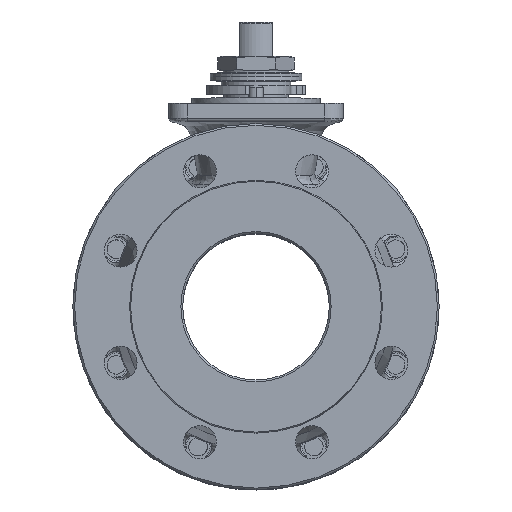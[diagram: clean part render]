
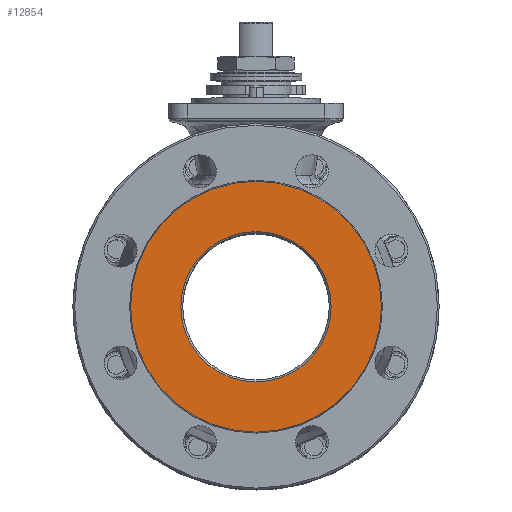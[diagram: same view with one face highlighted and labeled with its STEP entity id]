
A CAD part, top view. The second image highlights one B-rep face of the part: STEP entity #12854.
In plain terms, the highlighted planar face has unit normal (0, 0, 1) as drawn and (0, -1, 0) by its records, which use the part's own axes.
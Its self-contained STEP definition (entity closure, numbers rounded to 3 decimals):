
#349 = DIRECTION ( 'NONE',  ( 0., 0., 1. ) ) ;
#2985 = VERTEX_POINT ( 'NONE', #32987 ) ;
#4838 = EDGE_LOOP ( 'NONE', ( #9394, #28492 ) ) ;
#5054 = DIRECTION ( 'NONE',  ( 0., 1., 0. ) ) ;
#5083 = AXIS2_PLACEMENT_3D ( 'NONE', #13541, #7719, #27626 ) ;
#6024 = AXIS2_PLACEMENT_3D ( 'NONE', #31054, #5054, #10640 ) ;
#6069 = EDGE_CURVE ( 'NONE', #2985, #8365, #33470, .T. ) ;
#7719 = DIRECTION ( 'NONE',  ( 0., 1., 0. ) ) ;
#8365 = VERTEX_POINT ( 'NONE', #9463 ) ;
#9394 = ORIENTED_EDGE ( 'NONE', *, *, #6069, .F. ) ;
#9463 = CARTESIAN_POINT ( 'NONE',  ( 0., -64.75, -75.464 ) ) ;
#9490 = DIRECTION ( 'NONE',  ( 0., -1., 0. ) ) ;
#10086 = FACE_OUTER_BOUND ( 'NONE', #4838, .T. ) ;
#10613 = CARTESIAN_POINT ( 'NONE',  ( 0., -64.75, -7. ) ) ;
#10640 = DIRECTION ( 'NONE',  ( 0., 0., 1. ) ) ;
#11181 = CARTESIAN_POINT ( 'NONE',  ( 0., -64.75, -7. ) ) ;
#12329 = DIRECTION ( 'NONE',  ( 0., 0., -1. ) ) ;
#12854 = ADVANCED_FACE ( 'NONE', ( #36412, #10086 ), #17907, .T. ) ;
#13541 = CARTESIAN_POINT ( 'NONE',  ( 0., -64.75, -7. ) ) ;
#14604 = AXIS2_PLACEMENT_3D ( 'NONE', #18282, #9490, #12329 ) ;
#17907 = PLANE ( 'NONE',  #14604 ) ;
#18282 = CARTESIAN_POINT ( 'NONE',  ( 0., -64.75, -41.232 ) ) ;
#20275 = CIRCLE ( 'NONE', #6024, 68.464 ) ;
#22412 = CARTESIAN_POINT ( 'NONE',  ( 0., -64.75, -48. ) ) ;
#22470 = CIRCLE ( 'NONE', #5083, 41. ) ;
#23645 = EDGE_CURVE ( 'NONE', #33612, #35192, #27031, .T. ) ;
#25275 = EDGE_LOOP ( 'NONE', ( #31944, #32912 ) ) ;
#27031 = CIRCLE ( 'NONE', #34536, 41. ) ;
#27233 = EDGE_CURVE ( 'NONE', #8365, #2985, #20275, .T. ) ;
#27626 = DIRECTION ( 'NONE',  ( 0., 0., -1. ) ) ;
#28147 = CARTESIAN_POINT ( 'NONE',  ( 0., -64.75, 34. ) ) ;
#28492 = ORIENTED_EDGE ( 'NONE', *, *, #27233, .F. ) ;
#28751 = EDGE_CURVE ( 'NONE', #35192, #33612, #22470, .T. ) ;
#29711 = AXIS2_PLACEMENT_3D ( 'NONE', #11181, #31604, #349 ) ;
#31054 = CARTESIAN_POINT ( 'NONE',  ( 0., -64.75, -7. ) ) ;
#31604 = DIRECTION ( 'NONE',  ( 0., 1., 0. ) ) ;
#31944 = ORIENTED_EDGE ( 'NONE', *, *, #23645, .T. ) ;
#32912 = ORIENTED_EDGE ( 'NONE', *, *, #28751, .T. ) ;
#32987 = CARTESIAN_POINT ( 'NONE',  ( 0., -64.75, 61.464 ) ) ;
#33160 = DIRECTION ( 'NONE',  ( 0., 1., 0. ) ) ;
#33470 = CIRCLE ( 'NONE', #29711, 68.464 ) ;
#33612 = VERTEX_POINT ( 'NONE', #22412 ) ;
#34536 = AXIS2_PLACEMENT_3D ( 'NONE', #10613, #33160, #36396 ) ;
#35192 = VERTEX_POINT ( 'NONE', #28147 ) ;
#36396 = DIRECTION ( 'NONE',  ( 0., 0., -1. ) ) ;
#36412 = FACE_BOUND ( 'NONE', #25275, .T. ) ;
